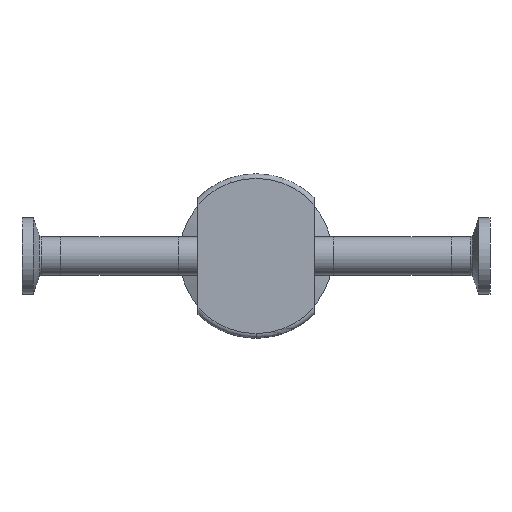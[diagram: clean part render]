
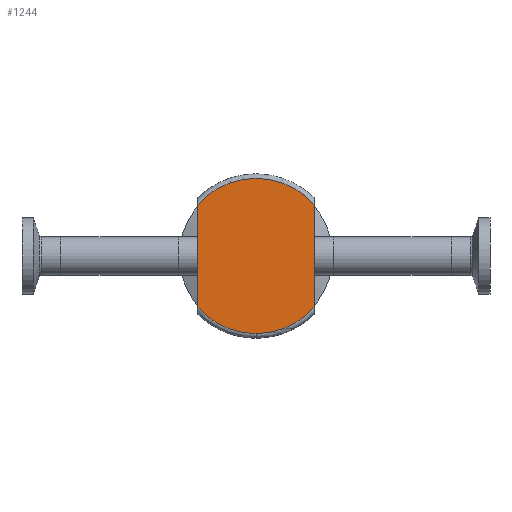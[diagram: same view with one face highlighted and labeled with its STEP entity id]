
A CAD part, front view. The second image highlights one B-rep face of the part: STEP entity #1244.
In plain terms, the highlighted planar face has unit normal (0, -1, 0).
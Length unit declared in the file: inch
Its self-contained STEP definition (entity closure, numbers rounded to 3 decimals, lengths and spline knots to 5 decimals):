
#42 = ORIENTED_EDGE ( 'NONE', *, *, #3396, .T. ) ;
#132 = AXIS2_PLACEMENT_3D ( 'NONE', #1757, #225, #584 ) ;
#153 = CARTESIAN_POINT ( 'NONE',  ( 0., 0., -1.0025 ) ) ;
#176 = CARTESIAN_POINT ( 'NONE',  ( -0.75, 0., 0.66521 ) ) ;
#225 = DIRECTION ( 'NONE',  ( 0., -1., 0. ) ) ;
#406 = ORIENTED_EDGE ( 'NONE', *, *, #2111, .T. ) ;
#438 = DIRECTION ( 'NONE',  ( 0., 0., -1. ) ) ;
#447 = CARTESIAN_POINT ( 'NONE',  ( -0.75, 0., -0.66521 ) ) ;
#464 = CIRCLE ( 'NONE', #3029, 1.0025 ) ;
#466 = LINE ( 'NONE', #1329, #890 ) ;
#509 = EDGE_LOOP ( 'NONE', ( #2439, #406, #42, #3151, #1677 ) ) ;
#552 = VECTOR ( 'NONE', #2867, 39.37008 ) ;
#584 = DIRECTION ( 'NONE',  ( 0., 0., -1. ) ) ;
#600 = EDGE_CURVE ( 'NONE', #3195, #1355, #466, .T. ) ;
#623 = VERTEX_POINT ( 'NONE', #153 ) ;
#649 = EDGE_CURVE ( 'NONE', #2826, #1355, #2265, .T. ) ;
#674 = LINE ( 'NONE', #2276, #552 ) ;
#747 = DIRECTION ( 'NONE',  ( 0., 0., 1. ) ) ;
#756 = CARTESIAN_POINT ( 'NONE',  ( 0., 0., 0. ) ) ;
#890 = VECTOR ( 'NONE', #747, 39.37008 ) ;
#917 = DIRECTION ( 'NONE',  ( 0., 0., -1. ) ) ;
#928 = FACE_OUTER_BOUND ( 'NONE', #509, .T. ) ;
#1007 = CARTESIAN_POINT ( 'NONE',  ( 0., 0., 0. ) ) ;
#1244 = ADVANCED_FACE ( 'NONE', ( #928 ), #2476, .T. ) ;
#1329 = CARTESIAN_POINT ( 'NONE',  ( -0.75, 0., 0. ) ) ;
#1340 = EDGE_CURVE ( 'NONE', #3122, #2826, #674, .T. ) ;
#1355 = VERTEX_POINT ( 'NONE', #176 ) ;
#1622 = CARTESIAN_POINT ( 'NONE',  ( 0.75, 0., 0.66521 ) ) ;
#1636 = AXIS2_PLACEMENT_3D ( 'NONE', #1007, #3661, #2128 ) ;
#1677 = ORIENTED_EDGE ( 'NONE', *, *, #649, .T. ) ;
#1757 = CARTESIAN_POINT ( 'NONE',  ( 0., 0., 0. ) ) ;
#1995 = CARTESIAN_POINT ( 'NONE',  ( 0., 0., 0. ) ) ;
#2111 = EDGE_CURVE ( 'NONE', #3195, #623, #464, .T. ) ;
#2128 = DIRECTION ( 'NONE',  ( 0., 0., -1. ) ) ;
#2265 = CIRCLE ( 'NONE', #132, 1.0025 ) ;
#2276 = CARTESIAN_POINT ( 'NONE',  ( 0.75, 0., 0. ) ) ;
#2439 = ORIENTED_EDGE ( 'NONE', *, *, #600, .F. ) ;
#2476 = PLANE ( 'NONE',  #1636 ) ;
#2581 = AXIS2_PLACEMENT_3D ( 'NONE', #1995, #3045, #917 ) ;
#2826 = VERTEX_POINT ( 'NONE', #1622 ) ;
#2867 = DIRECTION ( 'NONE',  ( 0., 0., 1. ) ) ;
#3029 = AXIS2_PLACEMENT_3D ( 'NONE', #756, #3121, #438 ) ;
#3045 = DIRECTION ( 'NONE',  ( 0., -1., 0. ) ) ;
#3121 = DIRECTION ( 'NONE',  ( 0., -1., 0. ) ) ;
#3122 = VERTEX_POINT ( 'NONE', #3652 ) ;
#3151 = ORIENTED_EDGE ( 'NONE', *, *, #1340, .T. ) ;
#3195 = VERTEX_POINT ( 'NONE', #447 ) ;
#3385 = CIRCLE ( 'NONE', #2581, 1.0025 ) ;
#3396 = EDGE_CURVE ( 'NONE', #623, #3122, #3385, .T. ) ;
#3652 = CARTESIAN_POINT ( 'NONE',  ( 0.75, 0., -0.66521 ) ) ;
#3661 = DIRECTION ( 'NONE',  ( 0., -1., 0. ) ) ;
